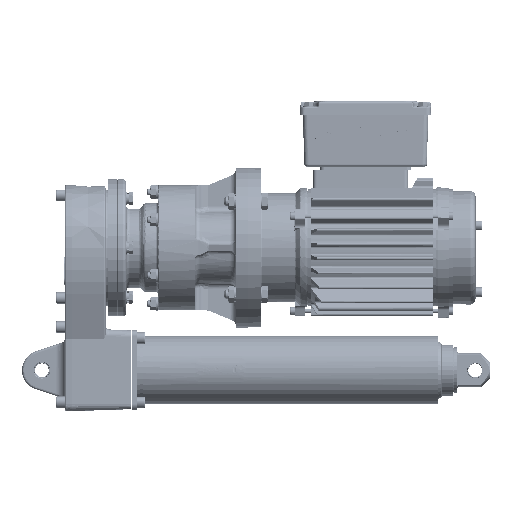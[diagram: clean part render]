
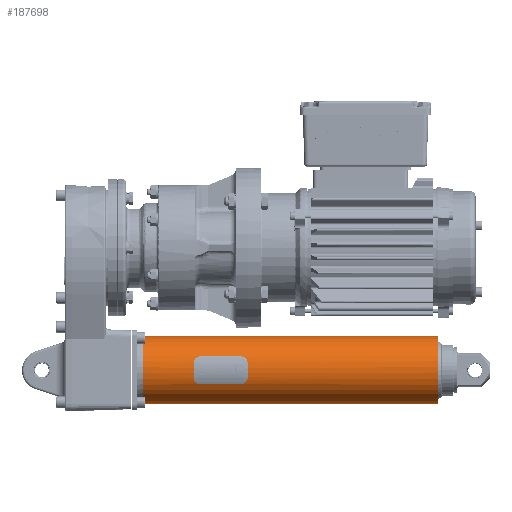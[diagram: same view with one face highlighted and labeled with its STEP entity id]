
A CAD part, left-side view. The second image highlights one B-rep face of the part: STEP entity #187698.
In plain terms, the highlighted cylindrical face has radius 30 mm (diameter 60 mm), a partial arc.
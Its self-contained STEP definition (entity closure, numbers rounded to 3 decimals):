
#659=CYLINDRICAL_SURFACE('',#195184,30.);
#1331=B_SPLINE_CURVE_WITH_KNOTS('',3,(#258391,#258392,#258393,#258394,#258395,
#258396),.UNSPECIFIED.,.F.,.F.,(4,1,1,4),(0.,0.002,0.005,
0.01),.UNSPECIFIED.);
#1332=B_SPLINE_CURVE_WITH_KNOTS('',3,(#258398,#258399,#258400,#258401),
 .UNSPECIFIED.,.F.,.F.,(4,4),(0.,0.035),
 .UNSPECIFIED.);
#1333=B_SPLINE_CURVE_WITH_KNOTS('',3,(#258403,#258404,#258405,#258406,#258407),
 .UNSPECIFIED.,.F.,.F.,(4,1,4),(0.,0.005,0.01),
 .UNSPECIFIED.);
#1334=B_SPLINE_CURVE_WITH_KNOTS('',3,(#258408,#258409,#258410,#258411,#258412,
#258413),.UNSPECIFIED.,.F.,.F.,(4,1,1,4),(0.,0.002,
0.005,0.01),.UNSPECIFIED.);
#1335=B_SPLINE_CURVE_WITH_KNOTS('',3,(#258415,#258416,#258417,#258418),
 .UNSPECIFIED.,.F.,.F.,(4,4),(0.,0.035),
 .UNSPECIFIED.);
#1336=B_SPLINE_CURVE_WITH_KNOTS('',3,(#258420,#258421,#258422,#258423,#258424),
 .UNSPECIFIED.,.F.,.F.,(4,1,4),(0.,0.005,0.01),
 .UNSPECIFIED.);
#1944=CIRCLE('',#195185,30.);
#1945=CIRCLE('',#195186,30.);
#10133=ELLIPSE('',#195169,30.,30.);
#10135=ELLIPSE('',#195172,30.,30.);
#11844=ORIENTED_EDGE('',*,*,#59052,.T.);
#11845=ORIENTED_EDGE('',*,*,#59074,.T.);
#11846=ORIENTED_EDGE('',*,*,#59075,.T.);
#11847=ORIENTED_EDGE('',*,*,#59076,.T.);
#11848=ORIENTED_EDGE('',*,*,#59056,.T.);
#11849=ORIENTED_EDGE('',*,*,#59077,.T.);
#11850=ORIENTED_EDGE('',*,*,#59078,.T.);
#11851=ORIENTED_EDGE('',*,*,#59079,.T.);
#11852=ORIENTED_EDGE('',*,*,#59080,.F.);
#11853=ORIENTED_EDGE('',*,*,#59081,.T.);
#11854=ORIENTED_EDGE('',*,*,#59082,.T.);
#11855=ORIENTED_EDGE('',*,*,#59083,.T.);
#59052=EDGE_CURVE('',#82801,#82800,#10133,.T.);
#59056=EDGE_CURVE('',#82805,#82804,#10135,.T.);
#59074=EDGE_CURVE('',#82800,#82818,#1331,.T.);
#59075=EDGE_CURVE('',#82818,#82819,#1332,.T.);
#59076=EDGE_CURVE('',#82819,#82805,#1333,.T.);
#59077=EDGE_CURVE('',#82804,#82820,#1334,.T.);
#59078=EDGE_CURVE('',#82820,#82821,#1335,.T.);
#59079=EDGE_CURVE('',#82821,#82801,#1336,.T.);
#59080=EDGE_CURVE('',#82822,#82823,#1944,.T.);
#59081=EDGE_CURVE('',#82822,#82824,#98601,.T.);
#59082=EDGE_CURVE('',#82824,#82825,#1945,.T.);
#59083=EDGE_CURVE('',#82825,#82823,#98602,.F.);
#82800=VERTEX_POINT('',#258344);
#82801=VERTEX_POINT('',#258346);
#82804=VERTEX_POINT('',#258353);
#82805=VERTEX_POINT('',#258355);
#82818=VERTEX_POINT('',#258397);
#82819=VERTEX_POINT('',#258402);
#82820=VERTEX_POINT('',#258414);
#82821=VERTEX_POINT('',#258419);
#82822=VERTEX_POINT('',#258426);
#82823=VERTEX_POINT('',#258427);
#82824=VERTEX_POINT('',#258429);
#82825=VERTEX_POINT('',#258431);
#98601=LINE('',#258428,#113502);
#98602=LINE('',#258432,#113503);
#113502=VECTOR('',#211876,1000.);
#113503=VECTOR('',#211879,1000.);
#128339=EDGE_LOOP('',(#11844,#11845,#11846,#11847,#11848,#11849,#11850,
#11851));
#128340=EDGE_LOOP('',(#11852,#11853,#11854,#11855));
#137113=FACE_BOUND('',#128339,.T.);
#137114=FACE_BOUND('',#128340,.T.);
#187698=ADVANCED_FACE('',(#137113,#137114),#659,.T.);
#195169=AXIS2_PLACEMENT_3D('',#258345,#211829,#211830);
#195172=AXIS2_PLACEMENT_3D('',#258354,#211837,#211838);
#195184=AXIS2_PLACEMENT_3D('',#258390,#211872,#211873);
#195185=AXIS2_PLACEMENT_3D('',#258425,#211874,#211875);
#195186=AXIS2_PLACEMENT_3D('',#258430,#211877,#211878);
#211829=DIRECTION('',(0.,1.,0.));
#211830=DIRECTION('',(0.,0.,1.));
#211837=DIRECTION('',(0.,-1.,0.));
#211838=DIRECTION('',(0.,0.,1.));
#211872=DIRECTION('',(0.,-1.,0.));
#211873=DIRECTION('',(0.,0.,-1.));
#211874=DIRECTION('',(0.,1.,0.));
#211875=DIRECTION('',(0.,0.,1.));
#211876=DIRECTION('',(0.,-1.,0.));
#211877=DIRECTION('',(0.,1.,0.));
#211878=DIRECTION('',(1.,0.,0.));
#211879=DIRECTION('',(0.,-1.,0.));
#258344=CARTESIAN_POINT('',(-29.366,214.603,6.133));
#258345=CARTESIAN_POINT('',(0.,214.604,0.));
#258346=CARTESIAN_POINT('',(-29.368,214.604,-6.126));
#258353=CARTESIAN_POINT('',(-29.367,167.102,-6.129));
#258354=CARTESIAN_POINT('',(0.,167.101,0.));
#258355=CARTESIAN_POINT('',(-29.367,167.101,6.129));
#258390=CARTESIAN_POINT('',(0.,275.,0.));
#258391=CARTESIAN_POINT('',(-29.366,214.603,6.133));
#258392=CARTESIAN_POINT('',(-29.197,214.603,6.945));
#258393=CARTESIAN_POINT('',(-28.795,214.282,8.525));
#258394=CARTESIAN_POINT('',(-27.875,212.515,11.216));
#258395=CARTESIAN_POINT('',(-27.38,210.134,12.262));
#258396=CARTESIAN_POINT('',(-27.38,208.473,12.262));
#258397=CARTESIAN_POINT('',(-27.38,208.473,12.262));
#258398=CARTESIAN_POINT('',(-27.38,208.473,12.262));
#258399=CARTESIAN_POINT('',(-27.38,196.726,12.261));
#258400=CARTESIAN_POINT('',(-27.381,184.978,12.26));
#258401=CARTESIAN_POINT('',(-27.381,173.23,12.259));
#258402=CARTESIAN_POINT('',(-27.381,173.23,12.259));
#258403=CARTESIAN_POINT('',(-27.381,173.23,12.259));
#258404=CARTESIAN_POINT('',(-27.381,171.571,12.259));
#258405=CARTESIAN_POINT('',(-28.05,168.395,10.861));
#258406=CARTESIAN_POINT('',(-29.029,167.101,7.751));
#258407=CARTESIAN_POINT('',(-29.367,167.101,6.129));
#258408=CARTESIAN_POINT('',(-29.367,167.102,-6.129));
#258409=CARTESIAN_POINT('',(-29.198,167.102,-6.941));
#258410=CARTESIAN_POINT('',(-28.796,167.423,-8.521));
#258411=CARTESIAN_POINT('',(-27.876,169.191,-11.212));
#258412=CARTESIAN_POINT('',(-27.381,171.571,-12.258));
#258413=CARTESIAN_POINT('',(-27.381,173.232,-12.258));
#258414=CARTESIAN_POINT('',(-27.381,173.232,-12.258));
#258415=CARTESIAN_POINT('',(-27.381,173.232,-12.258));
#258416=CARTESIAN_POINT('',(-27.382,184.979,-12.257));
#258417=CARTESIAN_POINT('',(-27.382,196.727,-12.256));
#258418=CARTESIAN_POINT('',(-27.382,208.475,-12.256));
#258419=CARTESIAN_POINT('',(-27.382,208.475,-12.256));
#258420=CARTESIAN_POINT('',(-27.382,208.475,-12.256));
#258421=CARTESIAN_POINT('',(-27.383,210.134,-12.255));
#258422=CARTESIAN_POINT('',(-28.051,213.31,-10.858));
#258423=CARTESIAN_POINT('',(-29.03,214.604,-7.748));
#258424=CARTESIAN_POINT('',(-29.368,214.604,-6.126));
#258425=CARTESIAN_POINT('',(0.,259.1,0.));
#258426=CARTESIAN_POINT('',(29.906,259.1,-2.375));
#258427=CARTESIAN_POINT('',(29.906,259.1,2.375));
#258428=CARTESIAN_POINT('',(29.906,275.,-2.375));
#258429=CARTESIAN_POINT('',(29.906,0.,-2.375));
#258430=CARTESIAN_POINT('',(0.,0.,0.));
#258431=CARTESIAN_POINT('',(29.906,0.,2.375));
#258432=CARTESIAN_POINT('',(29.906,275.,2.375));
